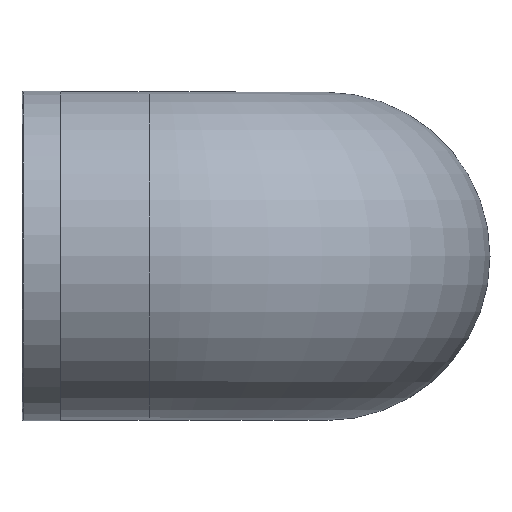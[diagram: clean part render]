
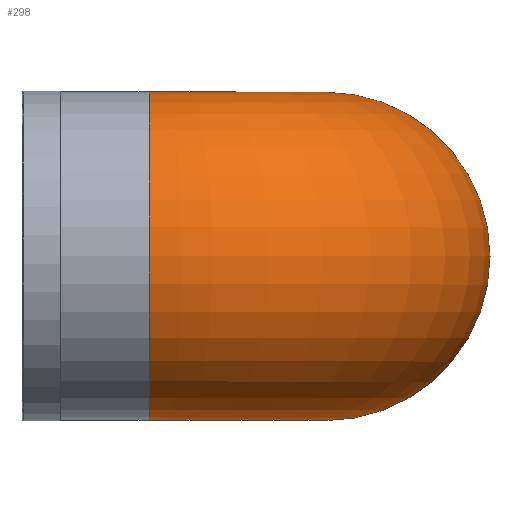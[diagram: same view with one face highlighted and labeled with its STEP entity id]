
A CAD part, top view. The second image highlights one B-rep face of the part: STEP entity #298.
In plain terms, the highlighted toroidal (fillet/blend) face has major radius 27.5 mm and minor radius 25.5 mm.
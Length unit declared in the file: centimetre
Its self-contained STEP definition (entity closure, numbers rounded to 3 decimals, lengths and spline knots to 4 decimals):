
#38=TOROIDAL_SURFACE('',#331,2.75,2.55);
#56=FACE_BOUND('',#110,.T.);
#77=FACE_OUTER_BOUND('',#109,.T.);
#109=EDGE_LOOP('',(#240));
#110=EDGE_LOOP('',(#241));
#131=CIRCLE('',#330,2.55);
#132=CIRCLE('',#332,2.55);
#156=VERTEX_POINT('',#3802);
#157=VERTEX_POINT('',#3805);
#187=EDGE_CURVE('',#156,#156,#131,.T.);
#188=EDGE_CURVE('',#157,#157,#132,.T.);
#240=ORIENTED_EDGE('',*,*,#187,.F.);
#241=ORIENTED_EDGE('',*,*,#188,.T.);
#298=ADVANCED_FACE('',(#77,#56),#38,.T.);
#330=AXIS2_PLACEMENT_3D('',#3803,#394,#395);
#331=AXIS2_PLACEMENT_3D('',#3804,#396,#397);
#332=AXIS2_PLACEMENT_3D('',#3806,#398,#399);
#394=DIRECTION('center_axis',(-1.,0.,0.));
#395=DIRECTION('ref_axis',(0.,0.,-1.));
#396=DIRECTION('center_axis',(0.,-1.,0.));
#397=DIRECTION('ref_axis',(0.,0.,-1.));
#398=DIRECTION('center_axis',(0.,0.,1.));
#399=DIRECTION('ref_axis',(-1.,0.,0.));
#3802=CARTESIAN_POINT('',(-2.1578,0.,5.525));
#3803=CARTESIAN_POINT('Origin',(-2.1578,0.,2.975));
#3804=CARTESIAN_POINT('Origin',(-2.1578,0.,0.225));
#3805=CARTESIAN_POINT('',(3.1422,0.,0.225));
#3806=CARTESIAN_POINT('Origin',(0.5922,0.,0.225));
